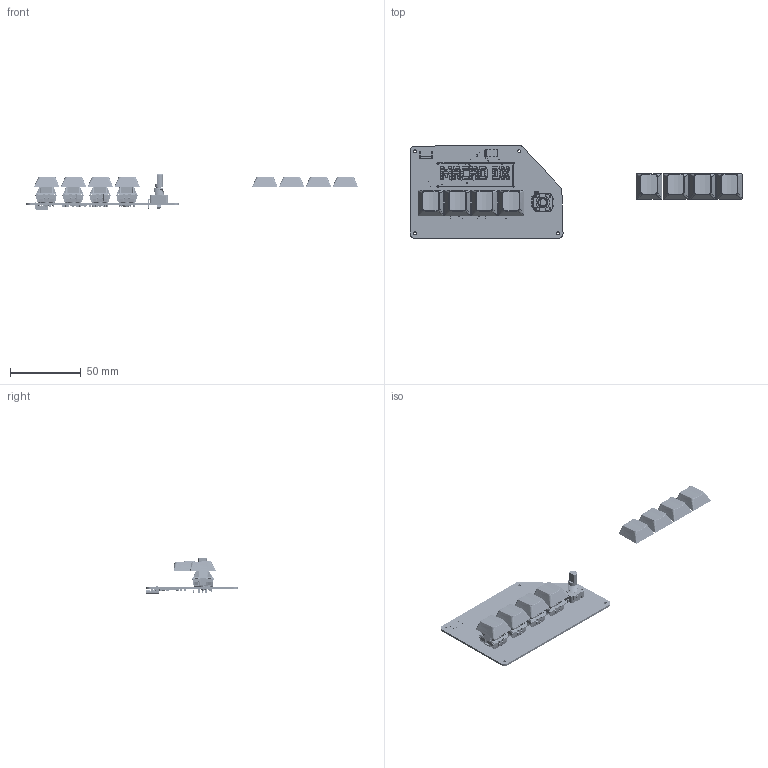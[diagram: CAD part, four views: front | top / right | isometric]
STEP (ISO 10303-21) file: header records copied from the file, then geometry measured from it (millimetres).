
FILE_DESCRIPTION(('FreeCAD Model'),'2;1');
FILE_NAME('Open CASCADE Shape Model','2026-02-17T21:39:24',(''),(''), 'Open CASCADE STEP processor 7.8','FreeCAD','Unknown');
FILE_SCHEMA(('AUTOMOTIVE_DESIGN { 1 0 10303 214 1 1 1 1 }'));
Length unit declared in the file: millimetre
Products named in the file (370): Unnamed1; LinkGroup001; Product011; Product012; Product013; Product014; LinkGroup002; 3rd testing 1; MX_PCB007; MX_PCB; MX_PCB001; MX_PCB002; MX_PCB003; MX_PCB004; MX_PCB005; MX_PCB006; MX_PCB015; MX_PCB008; MX_PCB009; MX_PCB010; MX_PCB011; MX_PCB012; MX_PCB013; MX_PCB014; pec11r-4x15f-sxxxx; MX_PCB023; MX_PCB016; MX_PCB017; MX_PCB018; MX_PCB019; MX_PCB020; MX_PCB021; MX_PCB022; MX_PCB031; MX_PCB024; MX_PCB025; MX_PCB026; MX_PCB027; MX_PCB028; MX_PCB029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
Assembly tree (370 placements, depth 4):
  Unnamed1
    LinkGroup001
      Product011
      Product012
      Product013
      Product014
    LinkGroup002
      LinkGroup001
        Product011
        Product012
        Product013
        Product014
    3rd testing 1
      MX_PCB007
        MX_PCB
        MX_PCB001
        MX_PCB002
        MX_PCB003
        MX_PCB004
        MX_PCB005
        MX_PCB006
      MX_PCB015
        MX_PCB008
        MX_PCB009
        MX_PCB010
        MX_PCB011
        MX_PCB012
        MX_PCB013
        MX_PCB014
      pec11r-4x15f-sxxxx
      MX_PCB023
        MX_PCB016
        MX_PCB017
        MX_PCB018
        MX_PCB019
        MX_PCB020
        MX_PCB021
        MX_PCB022
      MX_PCB031
        MX_PCB024
        MX_PCB025
        MX_PCB026
        MX_PCB027
        MX_PCB028
        MX_PCB029
        MX_PCB030
      C_0805_2012Metric
      R_0805_2012Metric
      R_0805_2012Metric001
      SK6812-E005
        SK6812-E
        SK6812-E001
        SK6812-E002
        SK6812-E003
        SK6812-E004
      Crystal_SMD_SeikoEpson_FA238-4Pin_3.2x2.5mm
      SK6812-E011
        SK6812-E006
        SK6812-E007
        SK6812-E008
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Bounding box: 235.38 x 65.9 x 25.73 mm (x, y, z)
Volume: 21237.8 mm3; surface area: 53693.7 mm2
Topology: 107 solids, 361 shells, 6591 faces, 21561 edges, 15553 vertices
Faces by surface type: plane 4355, cylinder 1553, bspline 356, torus 162, sphere 104, cone 61
Full cylindrical faces by diameter (mm): 0.3 x37, 0.4 x16, 0.5 x1, 0.7 x10, 1 x5, 1.5 x8, 1.75 x8, 2 x1, 2.1 x4, 4 x4, 5.4 x8
Entity records: 286797 total; most frequent: CARTESIAN_POINT 89494, ORIENTED_EDGE 37081, DIRECTION 36494, EDGE_CURVE 20989, LINE 16138, VECTOR 16138, VERTEX_POINT 15193, AXIS2_PLACEMENT_3D 10178
